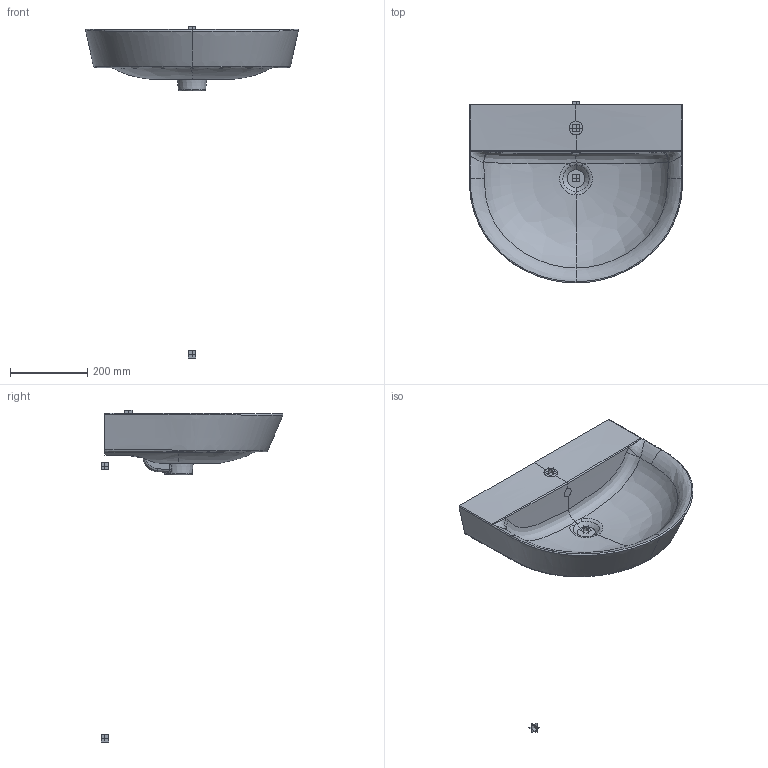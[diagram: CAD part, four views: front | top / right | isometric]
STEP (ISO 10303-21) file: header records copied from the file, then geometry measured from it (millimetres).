
FILE_DESCRIPTION((''),'2;1');
FILE_NAME('E0698_MK1_3DPL','2016-09-30T',('NikolovM'),('AMERICAN STANDARD B&K'),'PRO/ENGINEER BY PARAMETRIC TECHNOLOGY CORPORATION, 2011330','PRO/ENGINEER BY PARAMETRIC TECHNOLOGY CORPORATION, 2011330','');
FILE_SCHEMA(('CONFIG_CONTROL_DESIGN'));
Length unit declared in the file: millimetre
Products named in the file (1): E0698_MK1_3DPL
Bounding box: 550.05 x 470 x 857.9 mm (x, y, z)
Volume: 12424637 mm3; surface area: 670813.3 mm2
Topology: 1 solids, 13 shells, 89 faces, 270 edges, 195 vertices
Faces by surface type: bspline 50, plane 26, extrusion 7, cylinder 3, torus 2, cone 1
Entity records: 14173 total; most frequent: CARTESIAN_POINT 12191, ORIENTED_EDGE 492, EDGE_CURVE 270, DIRECTION 207, VERTEX_POINT 195, B_SPLINE_CURVE_WITH_KNOTS 169, VECTOR 89, EDGE_LOOP 89
